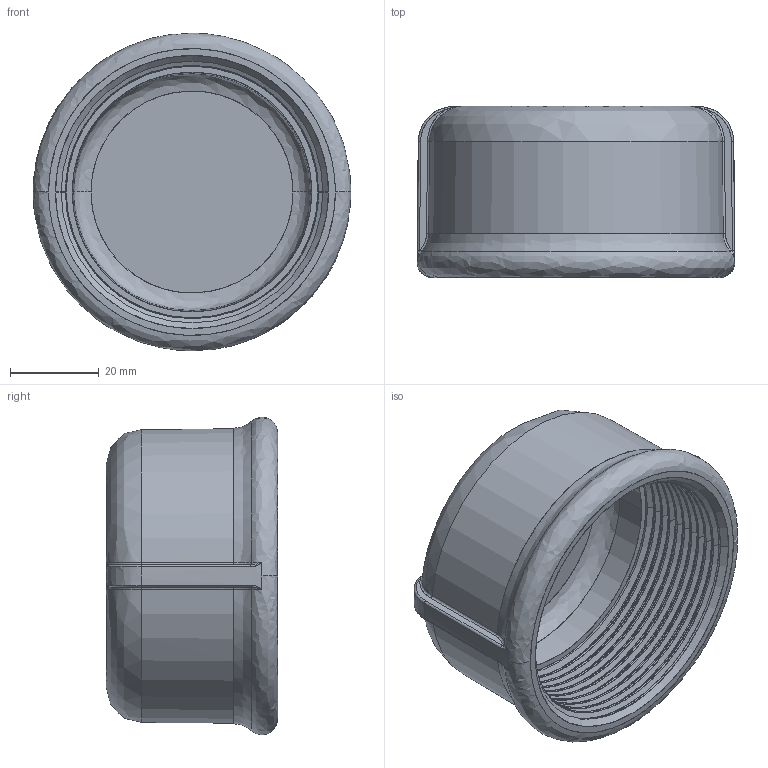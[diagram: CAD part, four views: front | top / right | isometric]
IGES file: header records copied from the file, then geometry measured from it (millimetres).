
Start section: SolidWorks IGES file using analytic representation for surfaces
Global section: file name: C:\Users\Joel Rosa\Desktop\Tubulação\12-42-XXX\12-42-010.IGS; native system: SolidWorks 2011; preprocessor: SolidWorks 2011; author: Joel Rosa; date: 131001.213507; units: millimetre
Bounding box: 71.6 x 38.6 x 71.6 mm (x, y, z)
Surface area: 23320.1 mm2 (no closed solid volume)
Topology: 0 solids, 0 shells, 244 faces, 2422 edges, 2422 vertices
Faces by surface type: bspline 192, revolution 52
